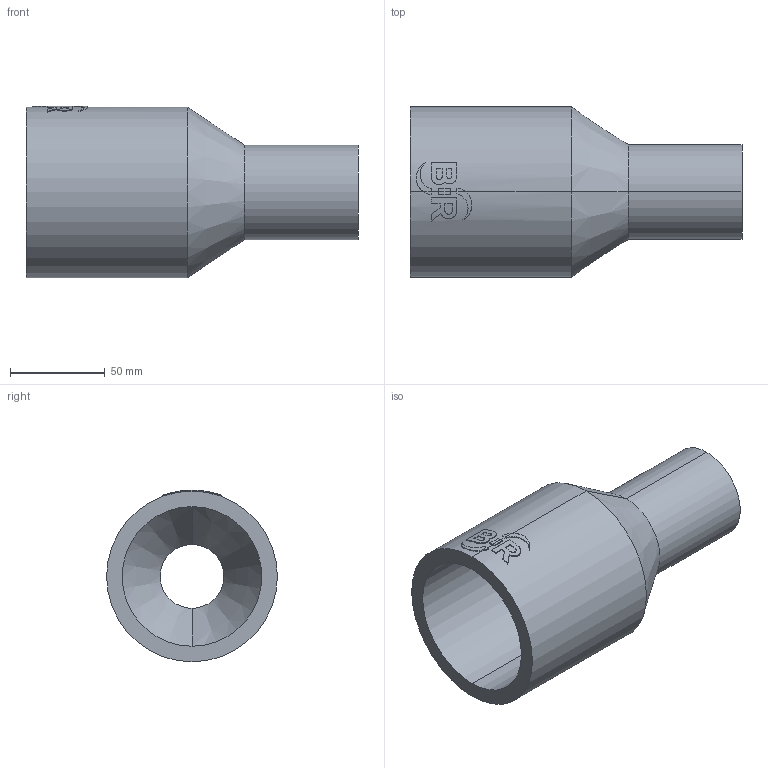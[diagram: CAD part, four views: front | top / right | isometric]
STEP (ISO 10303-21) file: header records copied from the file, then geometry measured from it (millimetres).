
FILE_DESCRIPTION (( 'STEP AP214' ), '1' );
FILE_NAME ('2323131015.STEP', '2018-07-20T09:19:20', ( '' ), ( '' ), 'SwSTEP 2.0', 'SolidWorks 2017', '' );
FILE_SCHEMA (( 'AUTOMOTIVE_DESIGN' ));
Length unit declared in the file: millimetre
Products named in the file (1): 2323131015
Bounding box: 175 x 90 x 90.46 mm (x, y, z)
Volume: 299996.6 mm3; surface area: 76440.1 mm2
Topology: 1 solids, 1 shells, 63 faces, 160 edges, 104 vertices
Faces by surface type: cylinder 31, plane 28, cone 4
Entity records: 3144 total; most frequent: CARTESIAN_POINT 935, ORIENTED_EDGE 320, DIRECTION 296, EDGE_CURVE 160, AXIS2_PLACEMENT_3D 112, VERTEX_POINT 104, LINE 72, VECTOR 72
